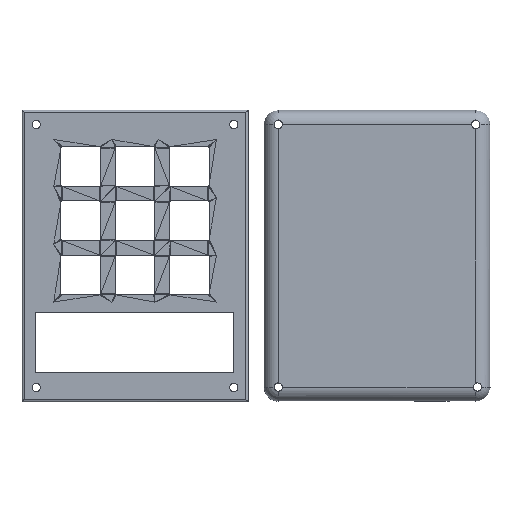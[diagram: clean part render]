
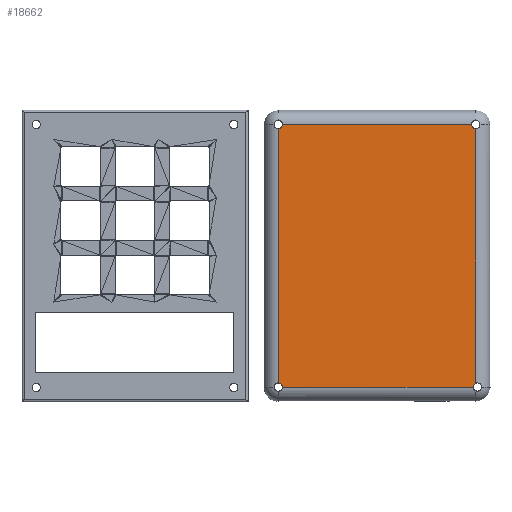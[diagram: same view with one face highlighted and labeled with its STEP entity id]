
A CAD part, front view. The second image highlights one B-rep face of the part: STEP entity #18662.
In plain terms, the highlighted planar face has unit normal (0, -1, 0).
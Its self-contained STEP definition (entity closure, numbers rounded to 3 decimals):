
#86=CIRCLE('',#20332,1.45);
#92=CIRCLE('',#20341,1.45);
#99=CIRCLE('',#20351,1.45);
#104=CIRCLE('',#20358,1.45);
#134=FACE_OUTER_BOUND('',#1786,.T.);
#1786=EDGE_LOOP('',(#12033,#12034,#12035,#12036,#12037,#12038,#12039,#12040));
#3438=LINE('',#27950,#5944);
#3447=LINE('',#28079,#5953);
#3449=LINE('',#28114,#5955);
#3457=LINE('',#28212,#5963);
#5944=VECTOR('',#22038,10.);
#5953=VECTOR('',#22065,10.);
#5955=VECTOR('',#22083,10.);
#5963=VECTOR('',#22125,10.);
#8452=VERTEX_POINT('',#27940);
#8453=VERTEX_POINT('',#27949);
#8463=VERTEX_POINT('',#28020);
#8468=VERTEX_POINT('',#28068);
#8471=VERTEX_POINT('',#28088);
#8473=VERTEX_POINT('',#28113);
#8480=VERTEX_POINT('',#28160);
#8484=VERTEX_POINT('',#28181);
#9343=EDGE_CURVE('',#8452,#8453,#3438,.T.);
#9358=EDGE_CURVE('',#8463,#8452,#86,.T.);
#9365=EDGE_CURVE('',#8468,#8463,#3447,.T.);
#9370=EDGE_CURVE('',#8453,#8471,#92,.T.);
#9374=EDGE_CURVE('',#8471,#8473,#3449,.T.);
#9385=EDGE_CURVE('',#8473,#8480,#99,.T.);
#9392=EDGE_CURVE('',#8484,#8468,#104,.T.);
#9399=EDGE_CURVE('',#8480,#8484,#3457,.T.);
#12033=ORIENTED_EDGE('',*,*,#9374,.F.);
#12034=ORIENTED_EDGE('',*,*,#9370,.F.);
#12035=ORIENTED_EDGE('',*,*,#9343,.F.);
#12036=ORIENTED_EDGE('',*,*,#9358,.F.);
#12037=ORIENTED_EDGE('',*,*,#9365,.F.);
#12038=ORIENTED_EDGE('',*,*,#9392,.F.);
#12039=ORIENTED_EDGE('',*,*,#9399,.F.);
#12040=ORIENTED_EDGE('',*,*,#9385,.F.);
#17018=PLANE('',#20365);
#18662=ADVANCED_FACE('',(#134),#17018,.F.);
#20332=AXIS2_PLACEMENT_3D('',#28035,#22056,#22057);
#20341=AXIS2_PLACEMENT_3D('',#28089,#22077,#22078);
#20351=AXIS2_PLACEMENT_3D('',#28161,#22100,#22101);
#20358=AXIS2_PLACEMENT_3D('',#28183,#22115,#22116);
#20365=AXIS2_PLACEMENT_3D('',#28224,#22139,#22140);
#22038=DIRECTION('',(-1.,0.,0.));
#22056=DIRECTION('center_axis',(0.,-1.,0.));
#22057=DIRECTION('ref_axis',(1.,0.,0.));
#22065=DIRECTION('',(0.,0.,-1.));
#22077=DIRECTION('center_axis',(0.,-1.,0.));
#22078=DIRECTION('ref_axis',(1.,0.,0.));
#22083=DIRECTION('',(0.,0.,1.));
#22100=DIRECTION('center_axis',(0.,-1.,0.));
#22101=DIRECTION('ref_axis',(1.,0.,0.));
#22115=DIRECTION('center_axis',(0.,-1.,0.));
#22116=DIRECTION('ref_axis',(1.,0.,0.));
#22125=DIRECTION('',(1.,0.,0.));
#22139=DIRECTION('center_axis',(0.,1.,0.));
#22140=DIRECTION('ref_axis',(1.,0.,0.));
#27940=CARTESIAN_POINT('',(63.55,0.,-5.));
#27949=CARTESIAN_POINT('',(-3.55,0.,-5.));
#27950=CARTESIAN_POINT('',(49.55,0.,-5.));
#28020=CARTESIAN_POINT('',(64.4,0.,-3.68));
#28035=CARTESIAN_POINT('Origin',(65.,0.,-5.));
#28068=CARTESIAN_POINT('',(64.4,0.,85.8));
#28079=CARTESIAN_POINT('',(64.4,0.,66.688));
#28088=CARTESIAN_POINT('',(-5.,0.,-3.55));
#28089=CARTESIAN_POINT('Origin',(-5.,0.,-5.));
#28113=CARTESIAN_POINT('',(-5.,0.,85.8));
#28114=CARTESIAN_POINT('',(-5.,0.,15.563));
#28160=CARTESIAN_POINT('',(-3.55,0.,87.25));
#28161=CARTESIAN_POINT('Origin',(-5.,0.,87.25));
#28181=CARTESIAN_POINT('',(62.95,0.,87.25));
#28183=CARTESIAN_POINT('Origin',(64.4,0.,87.25));
#28212=CARTESIAN_POINT('',(9.85,0.,87.25));
#28224=CARTESIAN_POINT('Origin',(29.7,0.,41.125));
